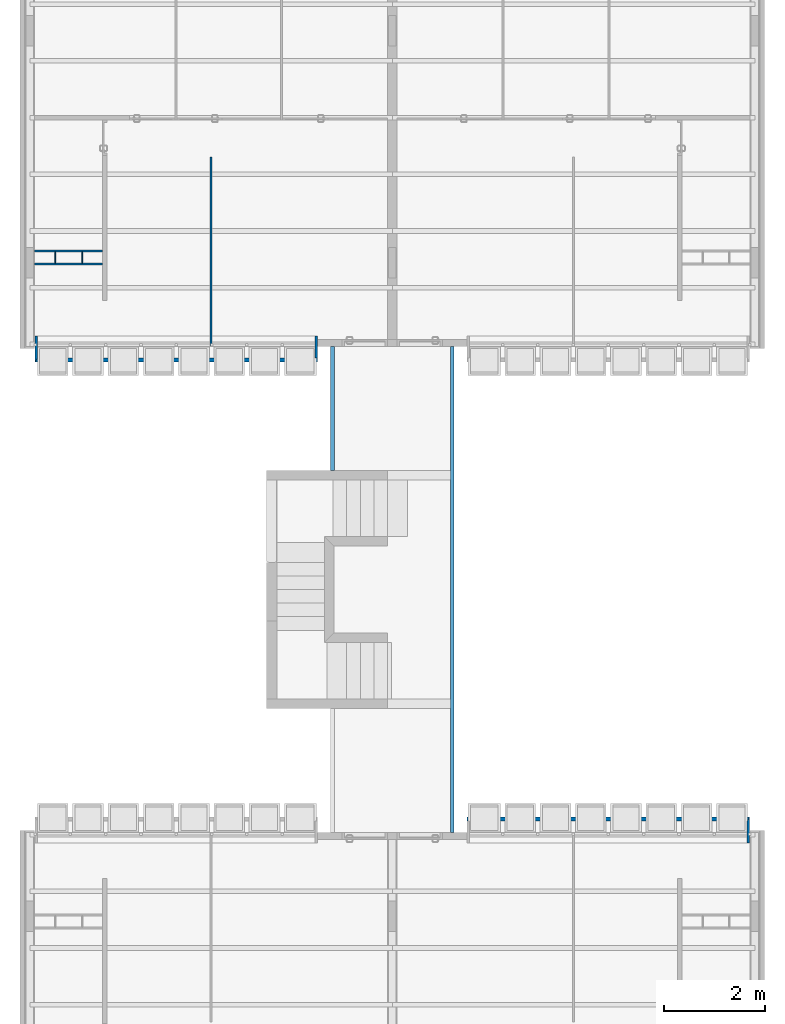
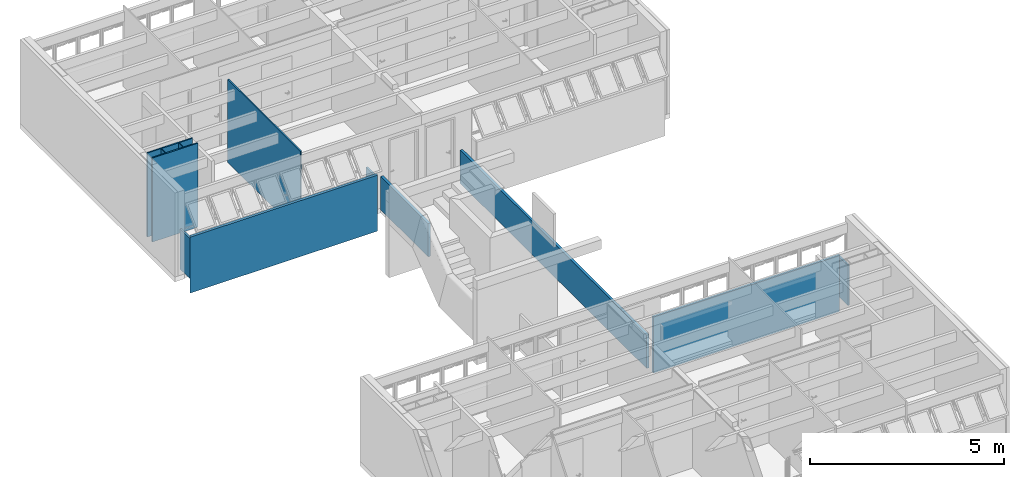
# One storey, part 16 of 38: 12 walls.
"""IFC2X3 building model written with IfcOpenShell, lengths in millimetres."""

from ifc_helpers import new_model, entity, si_unit, converted_unit, derived_unit, money_unit, direction, frame, origin_with_axes, place, context, subcontext, project, spatial, polyline, outline, extrude, material, layer, layer_set, layer_usage, type_object, element, save


model = new_model("IFC2X3")

# Units and contexts
model_context = context("Model", 3, precision=0.01, world=origin_with_axes(), true_north=direction((0.0, 1.0)))
body_context = subcontext(model_context, "Body", "Model", "MODEL_VIEW")
ifc_project = project(units=[si_unit("LENGTHUNIT", "METRE", prefix="MILLI"), si_unit("AREAUNIT", "SQUARE_METRE"), si_unit("VOLUMEUNIT", "CUBIC_METRE"), converted_unit("PLANEANGLEUNIT", "DEGREE", entity("IfcPlaneAngleMeasure", 0.0174532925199), si_unit("PLANEANGLEUNIT", "RADIAN"), dimensions=[0, 0, 0, 0, 0, 0, 0]), money_unit("USD"), converted_unit("TIMEUNIT", "Year", entity("IfcTimeMeasure", 31556926.0), si_unit("TIMEUNIT", "SECOND"), dimensions=[0, 0, 1, 0, 0, 0, 0]), si_unit("MASSUNIT", "GRAM", prefix="KILO"), si_unit("THERMODYNAMICTEMPERATUREUNIT", "DEGREE_CELSIUS"), si_unit("LUMINOUSINTENSITYUNIT", "LUMEN"), si_unit("ENERGYUNIT", "JOULE", prefix="MEGA"), derived_unit("THERMALCONDUCTANCEUNIT", [(si_unit("POWERUNIT", "WATT"), 1), (si_unit("LENGTHUNIT", "METRE"), -1), (si_unit("THERMODYNAMICTEMPERATUREUNIT", "KELVIN"), -1)]), derived_unit("SPECIFICHEATCAPACITYUNIT", [(si_unit("ENERGYUNIT", "JOULE"), 1), (si_unit("MASSUNIT", "GRAM", prefix="KILO"), -1), (si_unit("THERMODYNAMICTEMPERATUREUNIT", "KELVIN"), -1)]), derived_unit("MASSDENSITYUNIT", [(si_unit("MASSUNIT", "GRAM", prefix="KILO"), 1), (si_unit("VOLUMEUNIT", "CUBIC_METRE"), -1)])], contexts=[model_context])

# Site, building, storey
site_placement = place(None, origin_with_axes())
site = spatial("IfcSite", under=ifc_project, at=site_placement, Name="Local", CompositionType="ELEMENT")
building_placement = place(site_placement, origin_with_axes())
building = spatial("IfcBuilding", under=site, at=building_placement, Name="Construção", CompositionType="ELEMENT")
storey_placement = place(building_placement, frame((0.0, 0.0, 2650.0), z_axis=(0.0, 0.0, 1.0), x_axis=(1.0, 0.0, 0.0)))
storey = spatial("IfcBuildingStorey", under=building, at=storey_placement, Name="Segundo Pavimento", CompositionType="ELEMENT", Elevation=2650.0)

# Walls
ifc_material_1 = material(Name="GENÉRICO - VEDAÇÃO EXTERNA")
ifc_layer_1 = layer(ifc_material_1, 40.0, ventilated="UNKNOWN")
ifc_layer_set_1 = layer_set([ifc_layer_1], Name="GENÉRICO - VEDAÇÃO EXTERNA 40")
ifc_layer_usage_1 = layer_usage(ifc_layer_set_1, "AXIS2", "POSITIVE", -40.0)
wall_type_1 = type_object("IfcWallType", Name="GENÉRICO - VEDAÇÃO EXTERNA 40", PredefinedType="NOTDEFINED")
wall_1_placement = place(storey_placement, frame((3810.0, 21655.0, 0.0), z_axis=(0.0, 0.0, 1.0), x_axis=(0.0, -1.0, 0.0)))
element("IfcWallStandardCase", 1, at=wall_1_placement, inside=storey, type_object=wall_type_1, material=ifc_layer_usage_1, Name="APTO7-PAREDE-003", context=body_context, shape_type="SweptSolid", body=[
    extrude(outline(polyline([(0.0, -40.0), (3750.0, -40.0), (3750.0, 0.0), (0.0, 0.0), (0.0, -40.0)])), origin_with_axes(), (0.0, 0.0, 1.0), 2620.0),
])
ifc_layer_usage_2 = layer_usage(ifc_layer_set_1, "AXIS2", "POSITIVE", -40.0)
wall_2_placement = place(storey_placement, frame((290.0, 19815.0, 0.0), z_axis=(0.0, 0.0, 1.0), x_axis=(1.0, 0.0, 0.0)))
element("IfcWallStandardCase", 2, at=wall_2_placement, inside=storey, type_object=wall_type_1, material=ifc_layer_usage_2, Name="APTO7-PAREDE-011", context=body_context, shape_type="SweptSolid", body=[
    extrude(outline(polyline([(0.0, -40.0), (1350.0, -40.0), (1350.0, 0.0), (0.0, 0.0), (0.0, -40.0)])), origin_with_axes(), (0.0, 0.0, 1.0), 2650.0),
])
ifc_layer_usage_3 = layer_usage(ifc_layer_set_1, "AXIS2", "POSITIVE", -40.0)
wall_3_placement = place(storey_placement, frame((1730.0, 19515.0, 0.0), z_axis=(0.0, 0.0, 1.0), x_axis=(-1.0, 0.0, 0.0)))
element("IfcWallStandardCase", 3, at=wall_3_placement, inside=storey, type_object=wall_type_1, material=ifc_layer_usage_3, Name="APTO7-PAREDE-010", context=body_context, shape_type="SweptSolid", body=[
    extrude(outline(polyline([(90.0, -40.0), (1440.0, -40.0), (1440.0, 0.0), (90.0, 0.0), (90.0, -40.0)])), origin_with_axes(), (0.0, 0.0, 1.0), 2650.0),
])
ifc_material_2 = material(Name="Concreto Armado Moldado in Loco - Estrutural")
ifc_layer_2 = layer(ifc_material_2, 50.0, ventilated="UNKNOWN")
ifc_layer_set_2 = layer_set([ifc_layer_2], Name="Concreto Armado Moldado in Loco - Estrutural 50")
ifc_layer_usage_4 = layer_usage(ifc_layer_set_2, "AXIS2", "NEGATIVE", 50.0)
wall_type_2 = type_object("IfcWallType", Name="Concreto Armado Moldado in Loco - Estrutural 50", PredefinedType="NOTDEFINED")
wall_4_placement = place(storey_placement, frame((14470.0, 8054.99999866, 0.0), z_axis=(0.0, 0.0, 1.0), x_axis=(0.0, 1.0, 0.0)))
element("IfcWallStandardCase", 4, at=wall_4_placement, inside=storey, type_object=wall_type_2, material=ifc_layer_usage_4, Name="APTO6-PAREDE-018", context=body_context, shape_type="SweptSolid", body=[
    extrude(outline(polyline([(0.0, 0.0), (510.0, 0.0), (430.0, 50.0), (0.0, 50.0), (0.0, 0.0)])), origin_with_axes(), (0.0, 0.0, 1.0), 1270.0),
])
ifc_layer_usage_5 = layer_usage(ifc_layer_set_2, "AXIS2", "NEGATIVE", 50.0)
wall_5_placement = place(storey_placement, frame((5850.0, 18105.0000013, 0.0), z_axis=(0.0, 0.0, 1.0), x_axis=(0.0, -1.0, 0.0)))
element("IfcWallStandardCase", 5, at=wall_5_placement, inside=storey, type_object=wall_type_2, material=ifc_layer_usage_5, Name="APTO7-PAREDE-016", context=body_context, shape_type="SweptSolid", body=[
    extrude(outline(polyline([(0.0, 0.0), (435.0, 0.0), (435.0, 50.0), (0.0, 50.0), (0.0, 0.0)])), origin_with_axes(), (0.0, 0.0, 1.0), 1270.0),
])
ifc_layer_usage_6 = layer_usage(ifc_layer_set_2, "AXIS2", "NEGATIVE", 50.0)
wall_6_placement = place(storey_placement, frame((300.0, 18105.0000013, 0.0), z_axis=(0.0, 0.0, 1.0), x_axis=(0.0, -1.0, 0.0)))
element("IfcWallStandardCase", 6, at=wall_6_placement, inside=storey, type_object=wall_type_2, material=ifc_layer_usage_6, Name="APTO7-PAREDE-018", context=body_context, shape_type="SweptSolid", body=[
    extrude(outline(polyline([(0.0, 0.0), (510.0, 0.0), (430.0, 50.0), (0.0, 50.0), (0.0, 0.0)])), origin_with_axes(), (0.0, 0.0, 1.0), 1270.0),
])
ifc_layer_3 = layer(ifc_material_1, 20.0, ventilated="UNKNOWN")
ifc_layer_set_3 = layer_set([ifc_layer_3], Name="GENÉRICO - VEDAÇÃO EXTERNA 20")
ifc_layer_usage_7 = layer_usage(ifc_layer_set_3, "AXIS2", "POSITIVE", -20.0)
wall_type_3 = type_object("IfcWallType", Name="GENÉRICO - VEDAÇÃO EXTERNA 20", PredefinedType="NOTDEFINED")
wall_7_placement = place(storey_placement, frame((710.0, 19815.0, 0.0), z_axis=(0.0, 0.0, 1.0), x_axis=(0.0, -1.0, 0.0)))
element("IfcWallStandardCase", 7, at=wall_7_placement, inside=storey, type_object=wall_type_3, material=ifc_layer_usage_7, Name="APTO7-PAREDE-009", context=body_context, shape_type="SweptSolid", body=[
    extrude(outline(polyline([(40.0, -20.0), (260.0, -20.0), (260.0, 0.0), (40.0, 0.0), (40.0, -20.0)])), origin_with_axes(), (0.0, 0.0, 1.0), 2650.0),
])
ifc_layer_usage_8 = layer_usage(ifc_layer_set_3, "AXIS2", "POSITIVE", 0.0)
wall_8_placement = place(storey_placement, frame((1240.0, 19515.0, 0.0), z_axis=(0.0, 0.0, 1.0), x_axis=(0.0, 1.0, 0.0)))
element("IfcWallStandardCase", 8, at=wall_8_placement, inside=storey, type_object=wall_type_3, material=ifc_layer_usage_8, Name="APTO7-PAREDE-008", context=body_context, shape_type="SweptSolid", body=[
    extrude(outline(polyline([(40.0, 0.0), (260.0, 0.0), (260.0, 20.0), (40.0, 20.0), (40.0, 0.0)])), origin_with_axes(), (0.0, 0.0, 1.0), 2650.0),
])
ifc_layer_4 = layer(ifc_material_1, 75.0, ventilated="UNKNOWN")
ifc_layer_set_4 = layer_set([ifc_layer_4], Name="GENÉRICO - VEDAÇÃO EXTERNA 75")
ifc_layer_usage_9 = layer_usage(ifc_layer_set_4, "AXIS2", "NEGATIVE", 0.0)
wall_type_4 = type_object("IfcWallType", Name="GENÉRICO - VEDAÇÃO EXTERNA 75", PredefinedType="NOTDEFINED")
wall_9_placement = place(storey_placement, frame((8610.0, 17895.0, -50.0), z_axis=(0.0, 0.0, 1.0), x_axis=(0.0, -1.0, 0.0)))
element("IfcWallStandardCase", 9, at=wall_9_placement, inside=storey, type_object=wall_type_4, material=ifc_layer_usage_9, Name="CIRC2-PAREDE-027", context=body_context, shape_type="SweptSolid", body=[
    extrude(outline(polyline([(0.0, -75.0), (9630.00000134, -75.0), (9630.00000134, 0.0), (0.0, 0.0), (0.0, -75.0)])), origin_with_axes(), (0.0, 0.0, 1.0), 1050.0),
])
ifc_layer_usage_10 = layer_usage(ifc_layer_set_4, "AXIS2", "NEGATIVE", 0.0)
wall_10_placement = place(storey_placement, frame((6160.0, 15440.0, -50.0), z_axis=(0.0, 0.0, 1.0), x_axis=(0.0, 1.0, 0.0)))
element("IfcWallStandardCase", 10, at=wall_10_placement, inside=storey, type_object=wall_type_4, material=ifc_layer_usage_10, Name="CIRC2-PAREDE-028", context=body_context, shape_type="SweptSolid", body=[
    extrude(outline(polyline([(0.0, -75.0), (2455.0, -75.0), (2455.0, 0.0), (0.0, 0.0), (0.0, -75.0)])), origin_with_axes(), (0.0, 0.0, 1.0), 1050.0),
])
ifc_layer_5 = layer(ifc_material_2, 80.0, ventilated="UNKNOWN")
ifc_layer_set_5 = layer_set([ifc_layer_5], Name="Concreto Armado Moldado in Loco - Estrutural 80")
ifc_layer_usage_11 = layer_usage(ifc_layer_set_5, "AXIS2", "POSITIVE", -80.0)
wall_type_5 = type_object("IfcWallType", Name="Concreto Armado Moldado in Loco - Estrutural 80", PredefinedType="NOTDEFINED")
wall_11_placement = place(storey_placement, frame((14470.0, 8484.99999866, -450.0), z_axis=(0.0, 0.0, 1.0), x_axis=(-1.0, 0.0, 0.0)))
element("IfcWallStandardCase", 11, at=wall_11_placement, inside=storey, type_object=wall_type_5, material=ifc_layer_usage_11, Name="APTO6-PAREDE-017", context=body_context, shape_type="SweptSolid", body=[
    extrude(outline(polyline([(0.0, -80.0), (5600.0, -80.0), (5600.0, 0.0), (50.0, 0.0), (0.0, -80.0)])), origin_with_axes(), (0.0, 0.0, 1.0), 1765.0),
])
ifc_layer_usage_12 = layer_usage(ifc_layer_set_5, "AXIS2", "POSITIVE", -80.0)
wall_12_placement = place(storey_placement, frame((300.0, 17675.0000013, -450.0), z_axis=(0.0, 0.0, 1.0), x_axis=(1.0, 0.0, 0.0)))
element("IfcWallStandardCase", 12, at=wall_12_placement, inside=storey, type_object=wall_type_5, material=ifc_layer_usage_12, Name="APTO7-PAREDE-017", context=body_context, shape_type="SweptSolid", body=[
    extrude(outline(polyline([(0.0, -80.0), (5600.0, -80.0), (5600.0, 0.0), (50.0, 0.0), (0.0, -80.0)])), origin_with_axes(), (0.0, 0.0, 1.0), 1765.0),
])

save(model, "model.ifc")
